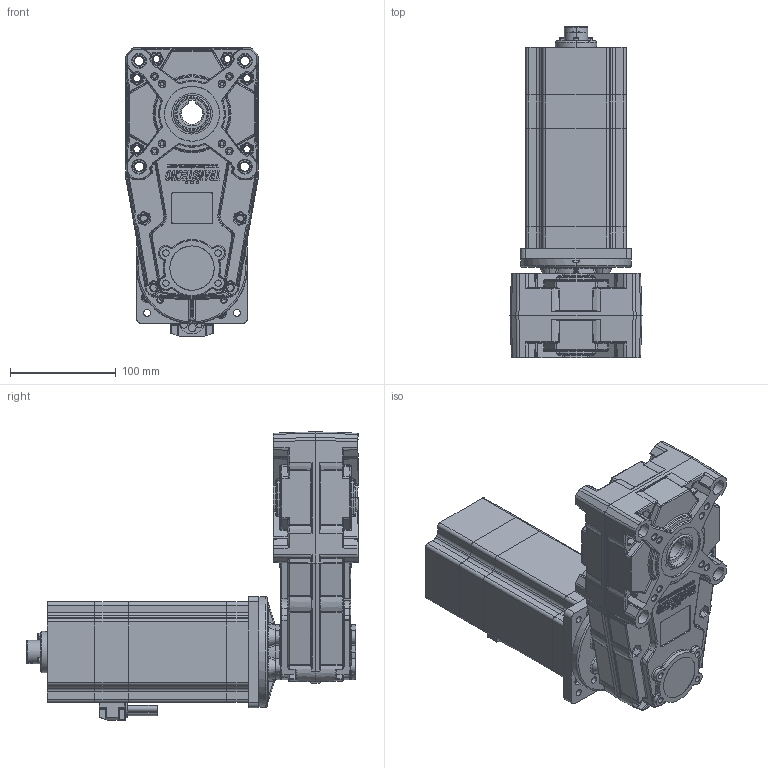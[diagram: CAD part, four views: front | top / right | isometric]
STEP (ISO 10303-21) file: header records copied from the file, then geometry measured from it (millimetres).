
FILE_DESCRIPTION (( 'STEP AP214' ), '1' );
FILE_NAME ('FT146+BL200.48.95.STEP', '2021-05-04T15:31:37', ( '' ), ( '' ), 'SwSTEP 2.0', 'SolidWorks 2020', '' );
FILE_SCHEMA (( 'AUTOMOTIVE_DESIGN' ));
Length unit declared in the file: millimetre
Products named in the file (13): FT1461220_ALLEGGERITO; W04004105; 6SCHHM312ZC; ANELLO AS AS355207; FT146_U_71B14; FT146+BL200.48.95; BL200.48.95+MEHR22Y03; NBR_42x7_DTMK70498; FT146151; BL200.48.95 INT; ANELLO AS AS254207; MEHR22 Y03; FT146011_alleggerita_2
Assembly tree (16 placements, depth 3):
  FT146+BL200.48.95
    BL200.48.95+MEHR22Y03
      BL200.48.95 INT
      MEHR22 Y03
      6SCHHM312ZC  x3
    FT146_U_71B14
      FT1461220_ALLEGGERITO
      ANELLO AS AS355207  x2
      W04004105
      FT146011_alleggerita_2  x2
      NBR_42x7_DTMK70498
      FT146151
      ANELLO AS AS254207
Bounding box: 124.95 x 314.1 x 272.97 mm (x, y, z)
Volume: 3187940.5 mm3; surface area: 437949.4 mm2
Topology: 18 solids, 40 shells, 4686 faces, 11637 edges, 7055 vertices
Faces by surface type: plane 1478, bspline 1162, cylinder 1104, cone 390, torus 368, sphere 184
Entity records: 113785 total; most frequent: CARTESIAN_POINT 46796, ORIENTED_EDGE 14629, DIRECTION 12215, EDGE_CURVE 7366, AXIS2_PLACEMENT_3D 4646, VERTEX_POINT 4576, EDGE_LOOP 3249, ADVANCED_FACE 3003
